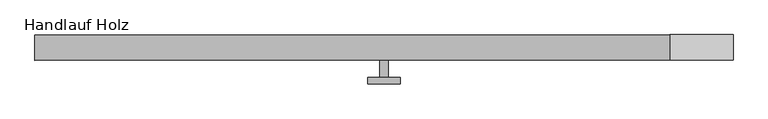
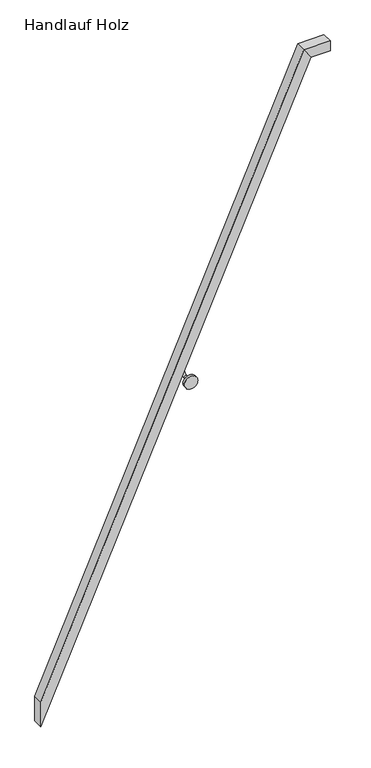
"""IFC4 building model written with IfcOpenShell, lengths in millimetres: railing geometry, Handlauf Holz."""

from ifc_helpers import new_model, si_unit, point, frame, frame_2d, origin, place, context, project, spatial, circle_curve, ellipse_curve, trimmed, segment, composite_curve, outline, extrude, faceted_brep, source, transform, mapped, element, save
from ifc_brep_helpers import plane_surface, cylinder_surface, revolved_surface, advanced_brep


def handlauf_holz_bf88dba0(model_context):
    return source(origin(), model_context, "Body", "SolidModel", [
        faceted_brep([(3490.0, 4622.4, 4977.2727273), (3490.0, 4662.4, 4977.2727273), (3490.0, 4662.4, 4877.9527252), (3490.0, 4622.4, 4877.9527252), (4490.0, 4622.4, 7250.0), (4490.0, 4662.4, 7250.0), (4516.1008009, 4662.4, 7210.0), (4516.1008009, 4622.4, 7210.0), (4590.0, 4622.4, 7250.0), (4590.0, 4622.4, 7210.0), (4590.0, 4662.4, 7210.0), (4590.0, 4662.4, 7250.0)], [[[0, 1, 2, 3]], [[1, 0, 4, 5]], [[2, 1, 5, 6]], [[3, 2, 6, 7]], [[0, 3, 7, 4]], [[8, 9, 10, 11]], [[5, 4, 8, 11]], [[6, 5, 11, 10]], [[7, 6, 10, 9]], [[4, 7, 9, 8]]]),
        advanced_brep(
        [(4033.65, 4642.4, 6168.2227273), (4046.35, 4642.4, 6168.2227273), (4033.65, 4642.4, 6111.0727273), (4046.35, 4642.4, 6111.0727273), (4046.35, 4623.35, 6092.0227273), (4033.65, 4623.35, 6092.0227273), (4033.65, 4594.775, 6092.0227273), (4046.35, 4594.775, 6092.0227273)],
        [
            (0, 1, circle_curve(frame((4040.0, 4642.4, 6168.2227273), z_axis=(0.0, 0.0, 1.0), x_axis=(1.0, 0.0, 0.0)), 6.35)),
            (1, 0, circle_curve(frame((4040.0, 4642.4, 6168.2227273), z_axis=(0.0, 0.0, 1.0), x_axis=(1.0, 0.0, 0.0)), 6.35)),
            (0, 2),
            (2, 3, circle_curve(frame((4040.0, 4642.4, 6111.0727273), z_axis=(0.0, 0.0, 1.0), x_axis=(1.0, 0.0, 0.0)), 6.35)),
            (3, 1),
            (3, 2, circle_curve(frame((4040.0, 4642.4, 6111.0727273), z_axis=(0.0, 0.0, 1.0), x_axis=(1.0, 0.0, 0.0)), 6.35)),
            (4, 3, circle_curve(frame((4046.35, 4623.35, 6111.0727273), z_axis=(1.0, 0.0, 0.0), x_axis=(0.0, 1.0, 0.0)), 19.05)),
            (2, 5, circle_curve(frame((4033.65, 4623.35, 6111.0727273), z_axis=(-1.0, 0.0, 0.0), x_axis=(0.0, 1.0, 0.0)), 19.05)),
            (5, 4, circle_curve(frame((4040.0, 4623.35, 6092.0227273), z_axis=(0.0, 1.0, 0.0), x_axis=(1.0, 0.0, 0.0)), 6.35)),
            (4, 5, circle_curve(frame((4040.0, 4623.35, 6092.0227273), z_axis=(0.0, 1.0, 0.0), x_axis=(1.0, 0.0, 0.0)), 6.35)),
            (6, 7, circle_curve(frame((4040.0, 4594.775, 6092.0227273), z_axis=(0.0, -1.0, 0.0), x_axis=(1.0, 0.0, 0.0)), 6.35)),
            (7, 6, circle_curve(frame((4040.0, 4594.775, 6092.0227273), z_axis=(0.0, -1.0, 0.0), x_axis=(1.0, 0.0, 0.0)), 6.35)),
            (5, 6),
            (7, 4),
        ],
        [
            plane_surface(frame((4046.35, 4642.4, 6168.2227273), z_axis=(0.0, 0.0, 1.0), x_axis=(0.0, -1.0, 0.0))),
            cylinder_surface(frame((4040.0, 4642.4, 6168.2227273), z_axis=(0.0, 0.0, 1.0), x_axis=(1.0, 0.0, 0.0)), 6.35),
            revolved_surface(trimmed(ellipse_curve(frame((4040.0, 4642.4, 6111.0727273), z_axis=(0.0, 0.0, 1.0), x_axis=(1.0, 0.0, 0.0)), 6.35, 6.35), [point((4033.65, 4642.4, 6111.0727273))], [point((4046.35, 4642.4, 6111.0727273))], True, "CARTESIAN"), (4040.0, 4623.35, 6111.0727273), (-1.0, 0.0, 0.0)),
            revolved_surface(trimmed(ellipse_curve(frame((4040.0, 4642.4, 6111.0727273), z_axis=(0.0, 0.0, 1.0), x_axis=(1.0, 0.0, 0.0)), 6.35, 6.35), [point((4046.35, 4642.4, 6111.0727273))], [point((4033.65, 4642.4, 6111.0727273))], True, "CARTESIAN"), (4040.0, 4623.35, 6111.0727273), (-1.0, 0.0, 0.0)),
            plane_surface(frame((4040.0, 4594.775, 6085.6727273), z_axis=(0.0, -1.0, 0.0), x_axis=(1.0, 0.0, 0.0))),
            cylinder_surface(frame((4040.0, 4623.35, 6092.0227273), z_axis=(0.0, 1.0, 0.0), x_axis=(1.0, 0.0, 0.0)), 6.35),
        ],
        [
            (0, [[1, 2]]),
            (1, [[-1, 3, 4, 5]]),
            (1, [[-2, -5, 6, -3]]),
            (2, [[7, -4, 8, 9]]),
            (3, [[-8, -6, -7, 10]]),
            (4, [[11, 12]]),
            (5, [[-9, 13, -12, 14]]),
            (5, [[-10, -14, -11, -13]]),
        ],
    ),
        extrude(outline(composite_curve([segment(trimmed(circle_curve(frame_2d((6092.0227273, 4040.0)), 25.4), [point((6092.0227273, 4065.4))], [point((6092.0227273, 4014.6))], False, "CARTESIAN"), True, "CONTINUOUS"), segment(trimmed(circle_curve(frame_2d((6092.0227273, 4040.0)), 25.4), [point((6092.0227273, 4014.6))], [point((6092.0227273, 4065.4))], False, "CARTESIAN"), True, "CONTINUOUS")], self_intersect=False)), frame((0.0, 4585.25, 0.0), z_axis=(0.0, 1.0, 0.0), x_axis=(0.0, 0.0, 1.0)), (0.0, 0.0, 1.0), 9.525),
    ])


if __name__ == "__main__":
    model = new_model("IFC4")
    model_context = context("Model", 3, world=origin())
    ifc_project = project(units=[si_unit("LENGTHUNIT", "METRE", prefix="MILLI")], contexts=[model_context])
    site = spatial("IfcSite", under=ifc_project)
    building = spatial("IfcBuilding", under=site)
    placement = place(None, origin())
    handlauf_holz_shape = handlauf_holz_bf88dba0(model_context)
    element("IfcRailing", 1, ObjectType="Handlauf Holz", at=placement, inside=building, context=model_context, shape_type="MappedRepresentation", body=[
        mapped(handlauf_holz_shape, transform((0.0, 0.0, 0.0), x_axis=(1.0, 0.0, 0.0), y_axis=(0.0, 1.0, 0.0), z_axis=(0.0, 0.0, 1.0))),
    ])
    save(model, "model.ifc")
